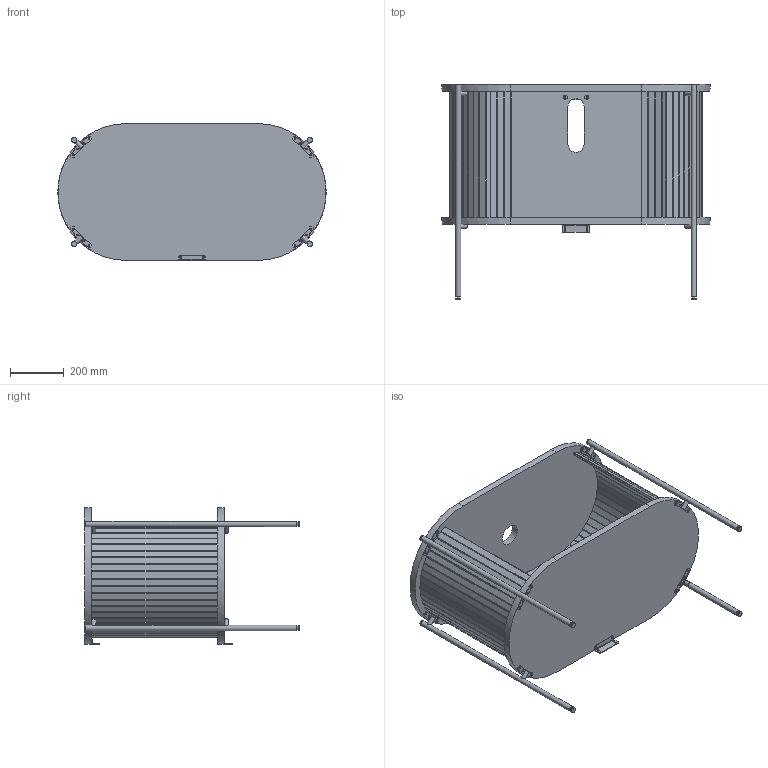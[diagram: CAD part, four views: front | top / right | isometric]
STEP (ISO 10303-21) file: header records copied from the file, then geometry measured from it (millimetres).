
FILE_DESCRIPTION (( 'STEP AP203' ), '1' );
FILE_NAME ('MBCL100.STEP', '2025-05-21T10:04:25', ( '' ), ( '' ), 'SwSTEP 2.0', 'SolidWorks 2025', '' );
FILE_SCHEMA (( 'CONFIG_CONTROL_DESIGN' ));
Length unit declared in the file: millimetre
Products named in the file (9): Assieme SERRANDA FISSA2; TAMPONATURA 2; GAMBA1_Default<A macchina>; 2 PIANO SUPERIORE 100; SQUADRETTA FIX; 2 PIANO INFERIORE 100; MBCL100; DOGA serrandina; serranda FISSA
Assembly tree (34 placements, depth 3):
  MBCL100
    2 PIANO SUPERIORE 100
    GAMBA1_Default<A macchina>  x4
    2 PIANO INFERIORE 100
    TAMPONATURA 2
    Assieme SERRANDA FISSA2  x2
      DOGA serrandina
    SQUADRETTA FIX  x2
  serranda FISSA
Bounding box: 1000 x 801.4 x 510 mm (x, y, z)
Volume: 26259749.7 mm3; surface area: 5781424.4 mm2
Topology: 55 solids, 55 shells, 1491 faces, 4081 edges, 2710 vertices
Faces by surface type: cylinder 799, plane 656, cone 36
Full cylindrical faces by diameter (mm): 5 x32, 10 x8, 12 x4, 14 x4, 15 x2, 16 x8, 20 x8, 80 x1
Entity records: 9222 total; most frequent: CARTESIAN_POINT 1673, DIRECTION 1334, ORIENTED_EDGE 1148, EDGE_CURVE 574, AXIS2_PLACEMENT_3D 519, VERTEX_POINT 398, VECTOR 296, LINE 296
